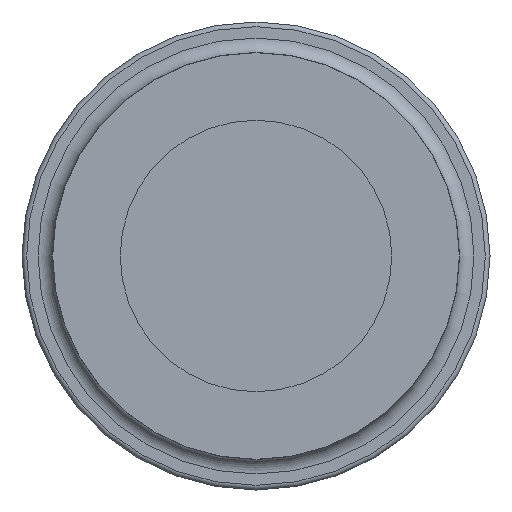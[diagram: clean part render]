
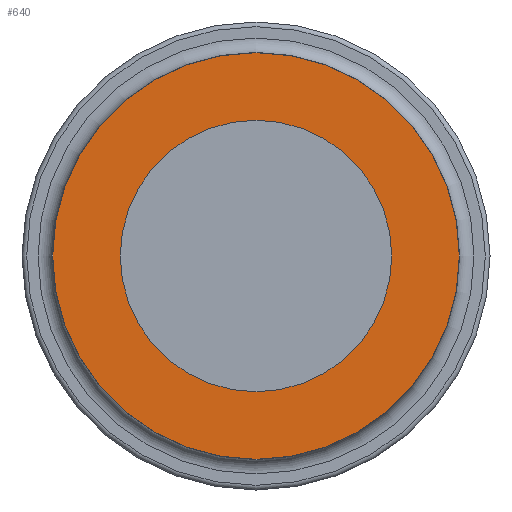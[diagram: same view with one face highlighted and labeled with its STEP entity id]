
A CAD part, left-side view. The second image highlights one B-rep face of the part: STEP entity #640.
In plain terms, the highlighted planar face has unit normal (-1, 0, 0).
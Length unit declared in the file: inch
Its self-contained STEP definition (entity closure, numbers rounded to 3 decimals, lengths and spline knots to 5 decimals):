
#640 = ADVANCED_FACE( '', ( #1339, #1340 ), #1341, .F. );
#1339 = FACE_BOUND( '', #2682, .T. );
#1340 = FACE_OUTER_BOUND( '', #2683, .T. );
#1341 = PLANE( '', #2684 );
#2682 = EDGE_LOOP( '', ( #4715 ) );
#2683 = EDGE_LOOP( '', ( #4716 ) );
#2684 = AXIS2_PLACEMENT_3D( '', #4717, #4718, #4719 );
#4715 = ORIENTED_EDGE( '', *, *, #4960, .F. );
#4716 = ORIENTED_EDGE( '', *, *, #5407, .T. );
#4717 = CARTESIAN_POINT( '', ( 0.01476, 0., 0.4345 ) );
#4718 = DIRECTION( '', ( 1., 0., 0. ) );
#4719 = DIRECTION( '', ( 0., 0., -1. ) );
#4960 = EDGE_CURVE( '', #5801, #5801, #5802, .T. );
#5407 = EDGE_CURVE( '', #6483, #6483, #6484, .T. );
#5801 = VERTEX_POINT( '', #7133 );
#5802 = CIRCLE( '', #7134, 0.29 );
#6483 = VERTEX_POINT( '', #8827 );
#6484 = CIRCLE( '', #8828, 0.4345 );
#7133 = CARTESIAN_POINT( '', ( 0.01476, 0., 0.29 ) );
#7134 = AXIS2_PLACEMENT_3D( '', #9167, #9168, #9169 );
#8827 = CARTESIAN_POINT( '', ( 0.01476, 0., 0.4345 ) );
#8828 = AXIS2_PLACEMENT_3D( '', #9221, #9222, #9223 );
#9167 = CARTESIAN_POINT( '', ( 0.01476, 0., 0. ) );
#9168 = DIRECTION( '', ( -1., 0., 0. ) );
#9169 = DIRECTION( '', ( 0., 0., 1. ) );
#9221 = CARTESIAN_POINT( '', ( 0.01476, 0., 0. ) );
#9222 = DIRECTION( '', ( -1., 0., 0. ) );
#9223 = DIRECTION( '', ( 0., 0., 1. ) );
